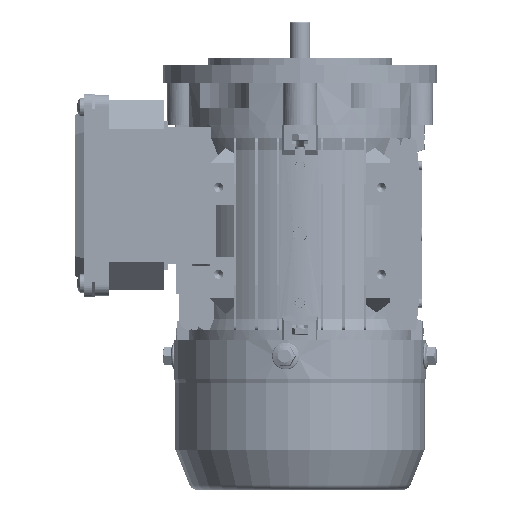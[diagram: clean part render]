
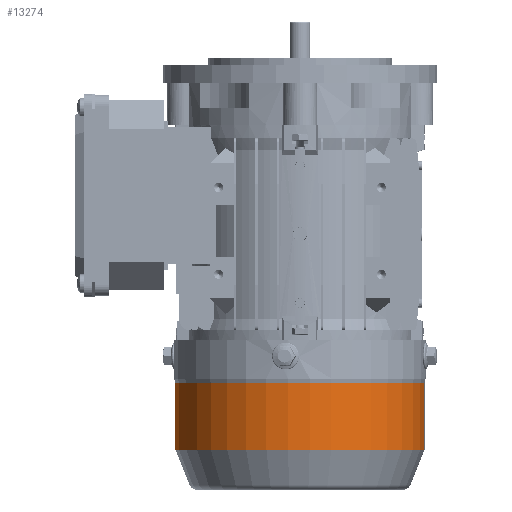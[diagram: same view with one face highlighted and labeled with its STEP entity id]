
A CAD part, left-side view. The second image highlights one B-rep face of the part: STEP entity #13274.
In plain terms, the highlighted cylindrical face has radius 54.6 mm (diameter 109.2 mm), a partial arc.
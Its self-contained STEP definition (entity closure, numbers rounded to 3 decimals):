
#1633 = EDGE_CURVE ( 'NONE', #111986, #109178, #101438, .T. ) ;
#9181 = LINE ( 'NONE', #63461, #85756 ) ;
#10867 = CIRCLE ( 'NONE', #109721, 54.6 ) ;
#13274 = ADVANCED_FACE ( 'NONE', ( #29902 ), #103350, .T. ) ;
#13958 = CARTESIAN_POINT ( 'NONE',  ( -54.6, 0., -29.504 ) ) ;
#17419 = CARTESIAN_POINT ( 'NONE',  ( 0., 0., -0.461 ) ) ;
#18111 = AXIS2_PLACEMENT_3D ( 'NONE', #68875, #78944, #128738 ) ;
#27472 = DIRECTION ( 'NONE',  ( 1., 0., 0. ) ) ;
#28418 = EDGE_CURVE ( 'NONE', #102523, #109178, #10867, .T. ) ;
#29902 = FACE_OUTER_BOUND ( 'NONE', #77406, .T. ) ;
#31954 = VERTEX_POINT ( 'NONE', #61607 ) ;
#33924 = DIRECTION ( 'NONE',  ( 0., 0., 1. ) ) ;
#34637 = ORIENTED_EDGE ( 'NONE', *, *, #79728, .T. ) ;
#37136 = CARTESIAN_POINT ( 'NONE',  ( 54.6, 0., -0.461 ) ) ;
#43839 = DIRECTION ( 'NONE',  ( 0., 0., 1. ) ) ;
#46441 = ORIENTED_EDGE ( 'NONE', *, *, #1633, .T. ) ;
#54532 = VECTOR ( 'NONE', #33924, 1000. ) ;
#55898 = CARTESIAN_POINT ( 'NONE',  ( 0., 0., -29.504 ) ) ;
#61607 = CARTESIAN_POINT ( 'NONE',  ( 54.6, 0., -29.504 ) ) ;
#63461 = CARTESIAN_POINT ( 'NONE',  ( 54.6, 0., 0. ) ) ;
#65927 = DIRECTION ( 'NONE',  ( 1., 0., 0. ) ) ;
#68875 = CARTESIAN_POINT ( 'NONE',  ( 0., 0., 0. ) ) ;
#77405 = ORIENTED_EDGE ( 'NONE', *, *, #28418, .F. ) ;
#77406 = EDGE_LOOP ( 'NONE', ( #34637, #46441, #77405, #117300 ) ) ;
#78944 = DIRECTION ( 'NONE',  ( 0., 0., 1. ) ) ;
#79728 = EDGE_CURVE ( 'NONE', #31954, #111986, #84845, .T. ) ;
#84845 = CIRCLE ( 'NONE', #102705, 54.6 ) ;
#85756 = VECTOR ( 'NONE', #43839, 1000. ) ;
#86706 = EDGE_CURVE ( 'NONE', #31954, #102523, #9181, .T. ) ;
#87245 = DIRECTION ( 'NONE',  ( 0., 0., 1. ) ) ;
#89950 = CARTESIAN_POINT ( 'NONE',  ( -54.6, 0., -0.461 ) ) ;
#101438 = LINE ( 'NONE', #123810, #54532 ) ;
#102523 = VERTEX_POINT ( 'NONE', #37136 ) ;
#102705 = AXIS2_PLACEMENT_3D ( 'NONE', #55898, #125774, #65927 ) ;
#103350 = CYLINDRICAL_SURFACE ( 'NONE', #18111, 54.6 ) ;
#109178 = VERTEX_POINT ( 'NONE', #89950 ) ;
#109721 = AXIS2_PLACEMENT_3D ( 'NONE', #17419, #87245, #27472 ) ;
#111986 = VERTEX_POINT ( 'NONE', #13958 ) ;
#117300 = ORIENTED_EDGE ( 'NONE', *, *, #86706, .F. ) ;
#123810 = CARTESIAN_POINT ( 'NONE',  ( -54.6, 0., 0. ) ) ;
#125774 = DIRECTION ( 'NONE',  ( 0., 0., 1. ) ) ;
#128738 = DIRECTION ( 'NONE',  ( 1., 0., 0. ) ) ;
